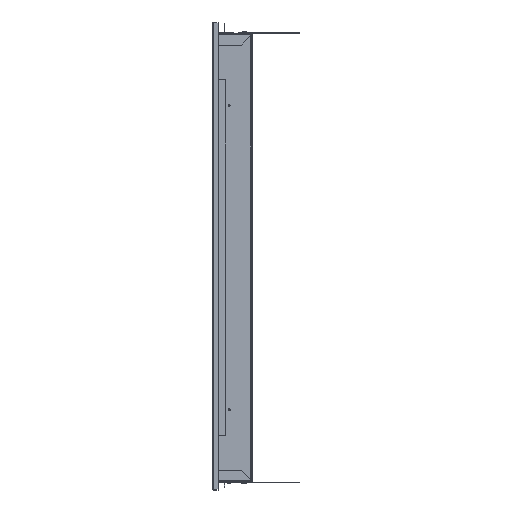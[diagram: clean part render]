
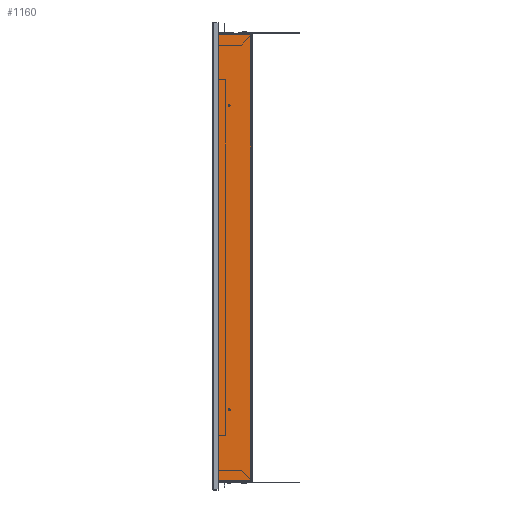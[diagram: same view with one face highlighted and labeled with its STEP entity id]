
A CAD part, left-side view. The second image highlights one B-rep face of the part: STEP entity #1160.
In plain terms, the highlighted planar face has unit normal (-1, 0, 0).
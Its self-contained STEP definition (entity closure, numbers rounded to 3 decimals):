
#1160=ADVANCED_FACE('',(#2361,#2363,#2365),#2367,.F.);
#2361=FACE_BOUND('',#2362,.T.);
#2362=EDGE_LOOP('',(#6377,#6378,#6379,#6380));
#2363=FACE_BOUND('',#2364,.T.);
#2364=EDGE_LOOP('',(#6381));
#2365=FACE_BOUND('',#2366,.T.);
#2366=EDGE_LOOP('',(#6382));
#2367=PLANE('',#2368);
#2368=AXIS2_PLACEMENT_3D('',#2369,#2370,#2371);
#2369=CARTESIAN_POINT('',(-285.9,-284.648,0.));
#2370=DIRECTION('',(1.,0.,0.));
#2371=DIRECTION('',(0.,-1.,0.));
#6377=ORIENTED_EDGE('',*,*,#8005,.T.);
#6378=ORIENTED_EDGE('',*,*,#8040,.T.);
#6379=ORIENTED_EDGE('',*,*,#8041,.F.);
#6380=ORIENTED_EDGE('',*,*,#8042,.T.);
#6381=ORIENTED_EDGE('',*,*,#8043,.T.);
#6382=ORIENTED_EDGE('',*,*,#8044,.T.);
#8005=EDGE_CURVE('',#9047,#9048,#9049,.T.);
#8040=EDGE_CURVE('',#9048,#9102,#9103,.T.);
#8041=EDGE_CURVE('',#9104,#9102,#9105,.T.);
#8042=EDGE_CURVE('',#9104,#9047,#9106,.T.);
#8043=EDGE_CURVE('',#9107,#9107,#9108,.T.);
#8044=EDGE_CURVE('',#9109,#9109,#9110,.T.);
#9047=VERTEX_POINT('',#10961);
#9048=VERTEX_POINT('',#10962);
#9049=LINE('',#10963,#10964);
#9102=VERTEX_POINT('',#11226);
#9103=LINE('',#11227,#11228);
#9104=VERTEX_POINT('',#11230);
#9105=LINE('',#11231,#11232);
#9106=LINE('',#11234,#11235);
#9107=VERTEX_POINT('',#11237);
#9108=CIRCLE('',#11238,1.25);
#9109=VERTEX_POINT('',#11242);
#9110=CIRCLE('',#11243,1.25);
#10961=CARTESIAN_POINT('',(-285.9,1.6,-283.329));
#10962=CARTESIAN_POINT('',(-285.9,1.6,283.329));
#10963=CARTESIAN_POINT('',(-285.9,1.6,-283.329));
#10964=VECTOR('',#10965,1.);
#10965=DIRECTION('',(0.,0.,1.));
#11226=CARTESIAN_POINT('',(-285.9,49.4,283.329));
#11227=CARTESIAN_POINT('',(-285.9,1.6,283.329));
#11228=VECTOR('',#11229,1.);
#11229=DIRECTION('',(0.,1.,0.));
#11230=CARTESIAN_POINT('',(-285.9,49.4,-283.329));
#11231=CARTESIAN_POINT('',(-285.9,49.4,-283.329));
#11232=VECTOR('',#11233,1.);
#11233=DIRECTION('',(0.,0.,1.));
#11234=CARTESIAN_POINT('',(-285.9,49.4,-283.329));
#11235=VECTOR('',#11236,1.);
#11236=DIRECTION('',(0.,-1.,0.));
#11237=CARTESIAN_POINT('',(-285.9,29.,-191.25));
#11238=AXIS2_PLACEMENT_3D('',#11239,#11240,#11241);
#11239=CARTESIAN_POINT('',(-285.9,29.,-192.5));
#11240=DIRECTION('',(1.,0.,0.));
#11241=DIRECTION('',(-0.,0.,1.));
#11242=CARTESIAN_POINT('',(-285.9,29.,193.75));
#11243=AXIS2_PLACEMENT_3D('',#11244,#11245,#11246);
#11244=CARTESIAN_POINT('',(-285.9,29.,192.5));
#11245=DIRECTION('',(1.,0.,0.));
#11246=DIRECTION('',(-0.,0.,1.));
